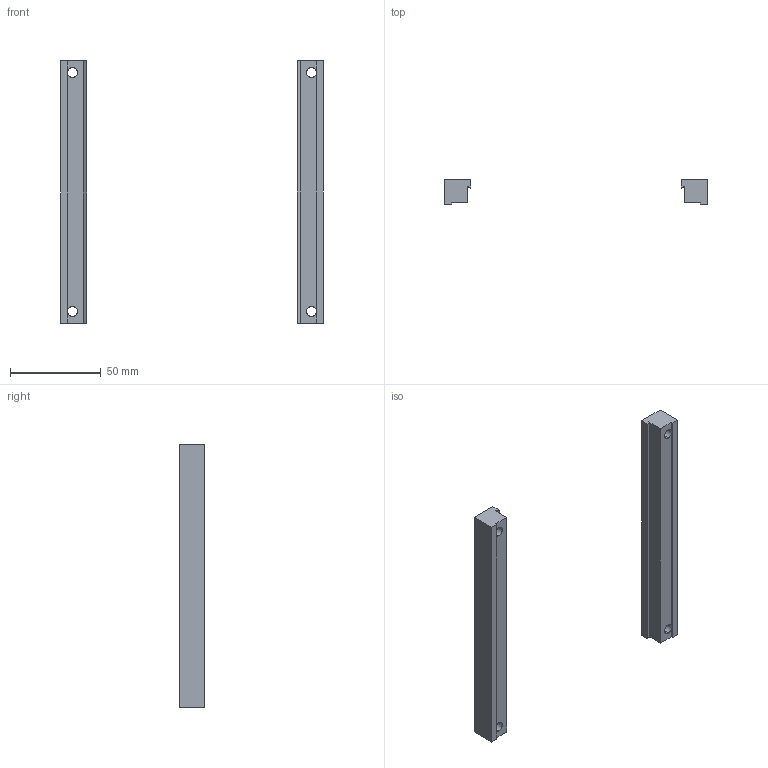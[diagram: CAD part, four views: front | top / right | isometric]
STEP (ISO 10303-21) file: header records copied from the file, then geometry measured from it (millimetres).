
FILE_DESCRIPTION (( 'STEP AP203' ), '1' );
FILE_NAME ('Befestigungsatz B 120.STEP', '2004-05-12T08:31:38', ( '' ), ( '' ), 'SwSTEP 2.0', 'SolidWorks 2003064', '' );
FILE_SCHEMA (( 'CONFIG_CONTROL_DESIGN' ));
Length unit declared in the file: millimetre
Products named in the file (2): Befestigungsatz   B 120; Klemmleiste dL 120_Standard
Assembly tree (2 placements, depth 2):
  Befestigungsatz   B 120
    Klemmleiste dL 120_Standard  x2
Bounding box: 145 x 13.7 x 145 mm (x, y, z)
Volume: 47593.4 mm3; surface area: 18380 mm2
Topology: 2 solids, 2 shells, 44 faces, 120 edges, 80 vertices
Faces by surface type: plane 28, cylinder 16
Entity records: 940 total; most frequent: DIRECTION 134, CARTESIAN_POINT 127, ORIENTED_EDGE 120, EDGE_CURVE 60, AXIS2_PLACEMENT_3D 47, VERTEX_POINT 40, LINE 40, VECTOR 40
